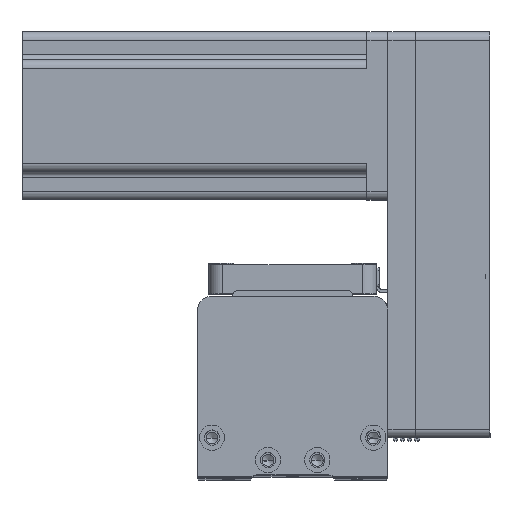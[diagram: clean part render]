
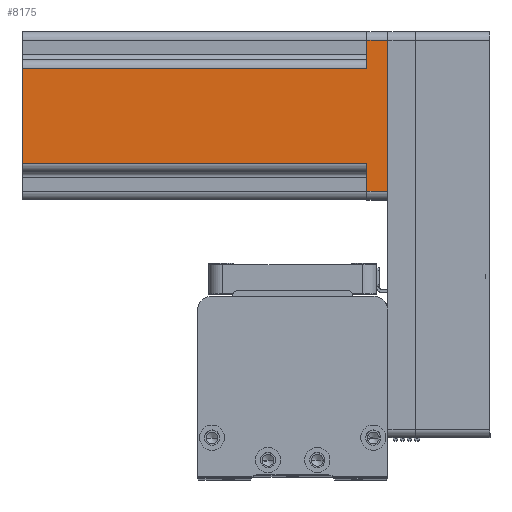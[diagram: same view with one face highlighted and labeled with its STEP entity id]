
A CAD part, top view. The second image highlights one B-rep face of the part: STEP entity #8175.
In plain terms, the highlighted planar face has unit normal (0, 0, 1) as drawn and (0, -1, 0) by its records, which use the part's own axes.
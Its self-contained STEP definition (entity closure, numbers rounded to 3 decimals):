
#843 = DIRECTION ( 'NONE',  ( 0., 0., 1. ) ) ;
#905 = DIRECTION ( 'NONE',  ( 0., 0., -1. ) ) ;
#1700 = ORIENTED_EDGE ( 'NONE', *, *, #43620, .T. ) ;
#1985 = ORIENTED_EDGE ( 'NONE', *, *, #20958, .T. ) ;
#2938 = CARTESIAN_POINT ( 'NONE',  ( 17., -30., 7.5 ) ) ;
#3297 = VECTOR ( 'NONE', #843, 1000. ) ;
#3986 = CARTESIAN_POINT ( 'NONE',  ( 30., -30., 130.7 ) ) ;
#4965 = CARTESIAN_POINT ( 'NONE',  ( 17., -30., 130.7 ) ) ;
#7467 = DIRECTION ( 'NONE',  ( -1., 0., 0. ) ) ;
#7648 = VECTOR ( 'NONE', #905, 1000. ) ;
#8175 = ADVANCED_FACE ( 'NONE', ( #12759 ), #27715, .F. ) ;
#8434 = ORIENTED_EDGE ( 'NONE', *, *, #43559, .F. ) ;
#8566 = DIRECTION ( 'NONE',  ( 0., 0., 1. ) ) ;
#8763 = EDGE_LOOP ( 'NONE', ( #42445, #40327, #8434, #1700, #39314, #39080, #1985, #37617 ) ) ;
#8872 = CARTESIAN_POINT ( 'NONE',  ( 27., -30., 7.5 ) ) ;
#9662 = VECTOR ( 'NONE', #8566, 1000. ) ;
#10703 = DIRECTION ( 'NONE',  ( 0., 0., -1. ) ) ;
#10797 = EDGE_CURVE ( 'NONE', #23742, #18810, #35931, .T. ) ;
#12031 = VECTOR ( 'NONE', #36868, 1000. ) ;
#12529 = CARTESIAN_POINT ( 'NONE',  ( 30., -30., 0. ) ) ;
#12759 = FACE_OUTER_BOUND ( 'NONE', #8763, .T. ) ;
#13158 = CARTESIAN_POINT ( 'NONE',  ( -17., -30., 130.7 ) ) ;
#13470 = LINE ( 'NONE', #24716, #3297 ) ;
#14666 = DIRECTION ( 'NONE',  ( -1., 0., 0. ) ) ;
#14839 = VECTOR ( 'NONE', #39197, 1000. ) ;
#15549 = CARTESIAN_POINT ( 'NONE',  ( 27., -30., 130.7 ) ) ;
#15900 = VERTEX_POINT ( 'NONE', #13158 ) ;
#16350 = LINE ( 'NONE', #12529, #34637 ) ;
#18671 = CARTESIAN_POINT ( 'NONE',  ( 30., -30., 130.7 ) ) ;
#18810 = VERTEX_POINT ( 'NONE', #8872 ) ;
#20894 = VERTEX_POINT ( 'NONE', #27783 ) ;
#20958 = EDGE_CURVE ( 'NONE', #18810, #32276, #44058, .T. ) ;
#21223 = CARTESIAN_POINT ( 'NONE',  ( 20., -30., 7.5 ) ) ;
#23742 = VERTEX_POINT ( 'NONE', #28916 ) ;
#24716 = CARTESIAN_POINT ( 'NONE',  ( 17., -30., 130.7 ) ) ;
#25883 = VECTOR ( 'NONE', #14666, 1000. ) ;
#27715 = PLANE ( 'NONE',  #33558 ) ;
#27783 = CARTESIAN_POINT ( 'NONE',  ( -27., -30., 7.5 ) ) ;
#27856 = DIRECTION ( 'NONE',  ( 0., 1., 0. ) ) ;
#28916 = CARTESIAN_POINT ( 'NONE',  ( 27., -30., 0. ) ) ;
#30074 = CARTESIAN_POINT ( 'NONE',  ( -17., -30., 7.5 ) ) ;
#30090 = CARTESIAN_POINT ( 'NONE',  ( -20., -30., 7.5 ) ) ;
#30192 = EDGE_CURVE ( 'NONE', #32276, #33328, #13470, .T. ) ;
#31171 = CARTESIAN_POINT ( 'NONE',  ( -27., -30., 130.7 ) ) ;
#32101 = EDGE_CURVE ( 'NONE', #32724, #23742, #16350, .T. ) ;
#32276 = VERTEX_POINT ( 'NONE', #2938 ) ;
#32369 = CARTESIAN_POINT ( 'NONE',  ( -27., -30., 0. ) ) ;
#32724 = VERTEX_POINT ( 'NONE', #32369 ) ;
#33328 = VERTEX_POINT ( 'NONE', #4965 ) ;
#33558 = AXIS2_PLACEMENT_3D ( 'NONE', #3986, #27856, #7467 ) ;
#33769 = EDGE_CURVE ( 'NONE', #15900, #36829, #34948, .T. ) ;
#33982 = VECTOR ( 'NONE', #10703, 1000. ) ;
#34129 = LINE ( 'NONE', #18671, #14839 ) ;
#34637 = VECTOR ( 'NONE', #39866, 1000. ) ;
#34948 = LINE ( 'NONE', #41838, #7648 ) ;
#35931 = LINE ( 'NONE', #15549, #9662 ) ;
#36829 = VERTEX_POINT ( 'NONE', #30074 ) ;
#36868 = DIRECTION ( 'NONE',  ( 1., 0., 0. ) ) ;
#37617 = ORIENTED_EDGE ( 'NONE', *, *, #30192, .T. ) ;
#38261 = LINE ( 'NONE', #30090, #12031 ) ;
#38819 = EDGE_CURVE ( 'NONE', #15900, #33328, #34129, .T. ) ;
#39080 = ORIENTED_EDGE ( 'NONE', *, *, #10797, .T. ) ;
#39197 = DIRECTION ( 'NONE',  ( 1., 0., 0. ) ) ;
#39314 = ORIENTED_EDGE ( 'NONE', *, *, #32101, .T. ) ;
#39866 = DIRECTION ( 'NONE',  ( 1., 0., 0. ) ) ;
#40327 = ORIENTED_EDGE ( 'NONE', *, *, #33769, .T. ) ;
#41838 = CARTESIAN_POINT ( 'NONE',  ( -17., -30., 130.7 ) ) ;
#41977 = LINE ( 'NONE', #31171, #33982 ) ;
#42445 = ORIENTED_EDGE ( 'NONE', *, *, #38819, .F. ) ;
#43559 = EDGE_CURVE ( 'NONE', #20894, #36829, #38261, .T. ) ;
#43620 = EDGE_CURVE ( 'NONE', #20894, #32724, #41977, .T. ) ;
#44058 = LINE ( 'NONE', #21223, #25883 ) ;
